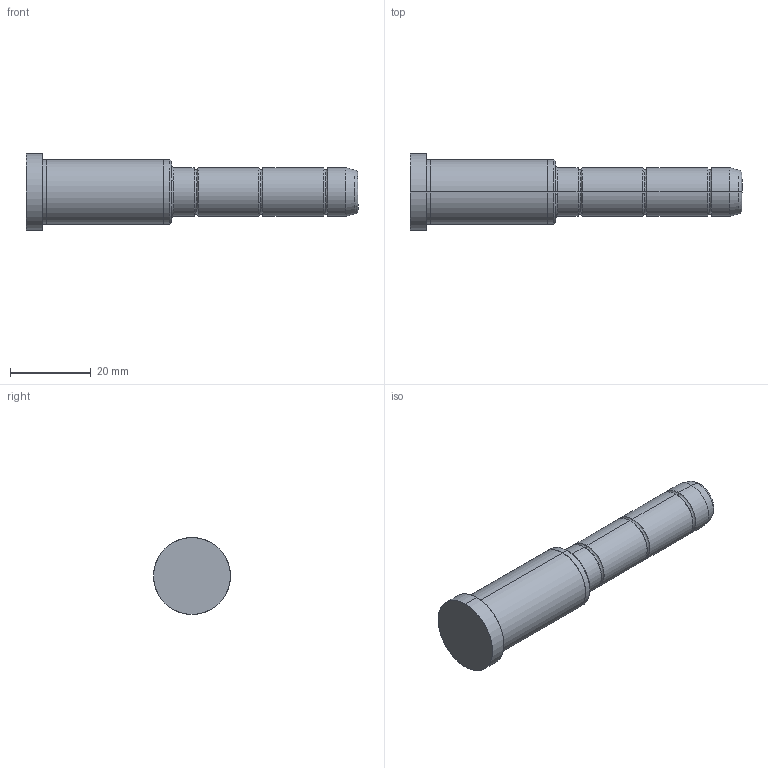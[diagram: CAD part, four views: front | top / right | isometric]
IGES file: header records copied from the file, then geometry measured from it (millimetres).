
Start section: SolidWorks IGES file using analytic representation for surfaces
Global section: file name: C:\Documents and Settings\kalite-mail\Desktop\IGS\D02\12\D02 - 12x36x46.IGS; native system: SolidWorks 2008; preprocessor: SolidWorks 2008; author: kalite-mail; date: 080616.135322; units: millimetre
Bounding box: 82 x 19 x 19 mm (x, y, z)
Surface area: 4143.6 mm2 (no closed solid volume)
Topology: 0 solids, 0 shells, 42 faces, 464 edges, 464 vertices
Faces by surface type: bspline 22, revolution 20
